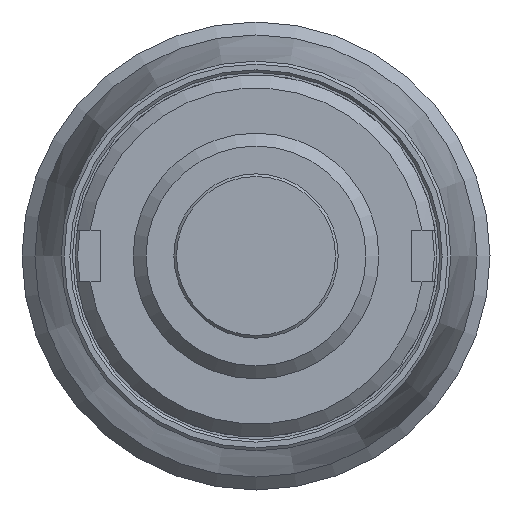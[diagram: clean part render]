
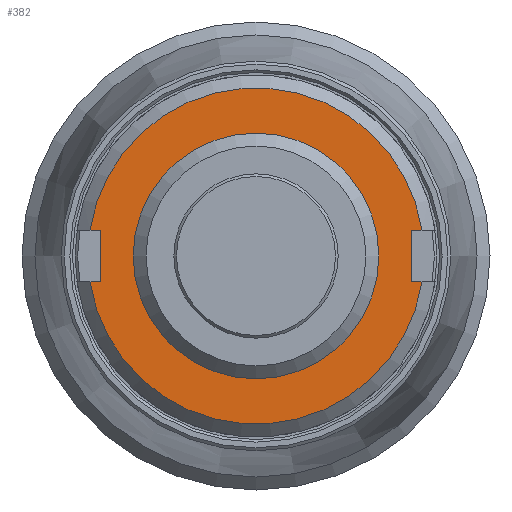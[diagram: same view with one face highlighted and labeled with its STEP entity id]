
A CAD part, left-side view. The second image highlights one B-rep face of the part: STEP entity #382.
In plain terms, the highlighted planar face has unit normal (-1, 0, 0).
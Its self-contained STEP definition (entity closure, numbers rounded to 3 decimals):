
#133=CARTESIAN_POINT('',(0.0,-4.75,0.));
#134=VERTEX_POINT('',#133);
#135=CARTESIAN_POINT('',(0.0,0.0,0.0));
#136=DIRECTION('',(1.0,0.0,0.0));
#137=DIRECTION('',(0.0,1.0,0.0));
#138=AXIS2_PLACEMENT_3D('',#135,#136,#137);
#139=CIRCLE('',#138,4.75);
#140=EDGE_CURVE('',#134,#134,#139,.T.);
#258=CARTESIAN_POINT('',(0.,-6.,-1.0));
#259=VERTEX_POINT('',#258);
#266=CARTESIAN_POINT('',(0.,-6.423,-1.));
#267=VERTEX_POINT('',#266);
#268=CARTESIAN_POINT('',(0.,-6.423,-1.));
#269=DIRECTION('',(0.0,1.0,0.0));
#270=VECTOR('',#269,0.423);
#271=LINE('',#268,#270);
#272=EDGE_CURVE('',#267,#259,#271,.T.);
#296=CARTESIAN_POINT('',(0.,6.423,-1.));
#297=VERTEX_POINT('',#296);
#313=CARTESIAN_POINT('',(0.,0.0,0.0));
#314=DIRECTION('',(1.0,0.0,0.0));
#315=DIRECTION('',(0.0,-1.0,0.0));
#316=AXIS2_PLACEMENT_3D('',#313,#314,#315);
#317=CIRCLE('',#316,6.5);
#318=EDGE_CURVE('',#267,#297,#317,.T.);
#323=CARTESIAN_POINT('',(0.,0.0,0.0));
#324=DIRECTION('',(-1.0,0.0,0.0));
#325=DIRECTION('',(0.0,0.0,1.0));
#326=AXIS2_PLACEMENT_3D('',#323,#324,#325);
#327=PLANE('',#326);
#328=ORIENTED_EDGE('',*,*,#318,.F.);
#329=ORIENTED_EDGE('',*,*,#272,.T.);
#330=CARTESIAN_POINT('',(0.,-6.,1.));
#331=VERTEX_POINT('',#330);
#332=CARTESIAN_POINT('',(0.,-6.,-1.0));
#333=DIRECTION('',(0.0,0.0,1.0));
#334=VECTOR('',#333,2.);
#335=LINE('',#332,#334);
#336=EDGE_CURVE('',#259,#331,#335,.T.);
#337=ORIENTED_EDGE('',*,*,#336,.T.);
#338=CARTESIAN_POINT('',(0.,-6.423,1.));
#339=VERTEX_POINT('',#338);
#340=CARTESIAN_POINT('',(0.,-6.,1.));
#341=DIRECTION('',(0.0,-1.0,0.0));
#342=VECTOR('',#341,0.423);
#343=LINE('',#340,#342);
#344=EDGE_CURVE('',#331,#339,#343,.T.);
#345=ORIENTED_EDGE('',*,*,#344,.T.);
#346=CARTESIAN_POINT('',(0.,6.423,1.));
#347=VERTEX_POINT('',#346);
#348=CARTESIAN_POINT('',(0.,0.0,0.0));
#349=DIRECTION('',(1.0,0.0,0.0));
#350=DIRECTION('',(0.0,-1.0,0.0));
#351=AXIS2_PLACEMENT_3D('',#348,#349,#350);
#352=CIRCLE('',#351,6.5);
#353=EDGE_CURVE('',#347,#339,#352,.T.);
#354=ORIENTED_EDGE('',*,*,#353,.F.);
#355=CARTESIAN_POINT('',(0.,6.,1.));
#356=VERTEX_POINT('',#355);
#357=CARTESIAN_POINT('',(0.,6.423,1.));
#358=DIRECTION('',(0.0,-1.0,0.0));
#359=VECTOR('',#358,0.423);
#360=LINE('',#357,#359);
#361=EDGE_CURVE('',#347,#356,#360,.T.);
#362=ORIENTED_EDGE('',*,*,#361,.T.);
#363=CARTESIAN_POINT('',(0.,6.,-1.));
#364=VERTEX_POINT('',#363);
#365=CARTESIAN_POINT('',(0.,6.,1.));
#366=DIRECTION('',(0.0,0.0,-1.0));
#367=VECTOR('',#366,2.);
#368=LINE('',#365,#367);
#369=EDGE_CURVE('',#356,#364,#368,.T.);
#370=ORIENTED_EDGE('',*,*,#369,.T.);
#371=CARTESIAN_POINT('',(0.,6.,-1.));
#372=DIRECTION('',(0.0,1.0,0.0));
#373=VECTOR('',#372,0.423);
#374=LINE('',#371,#373);
#375=EDGE_CURVE('',#364,#297,#374,.T.);
#376=ORIENTED_EDGE('',*,*,#375,.T.);
#377=EDGE_LOOP('',(#328,#329,#337,#345,#354,#362,#370,#376));
#378=FACE_OUTER_BOUND('',#377,.T.);
#379=ORIENTED_EDGE('',*,*,#140,.T.);
#380=EDGE_LOOP('',(#379));
#381=FACE_BOUND('',#380,.T.);
#382=ADVANCED_FACE('',(#378,#381),#327,.T.);
